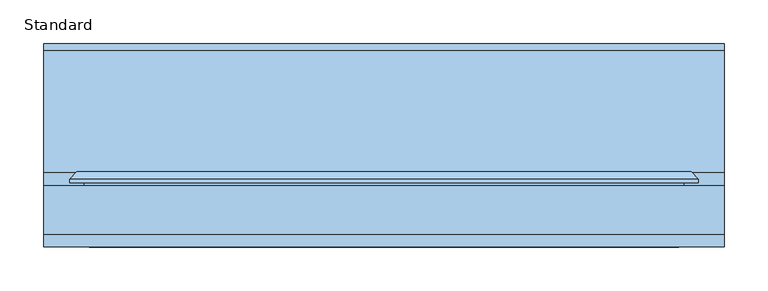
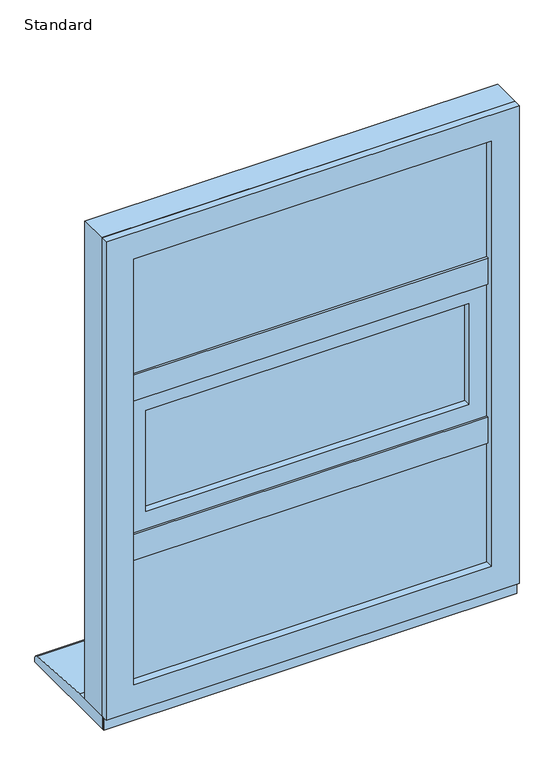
"""IFC4 building model written with IfcOpenShell, lengths in millimetres: window geometry, SMARTS_Alitherm600 : Standard."""

from ifc_helpers import new_model, si_unit, point, frame, frame_2d, origin, place, context, project, spatial, polyline, circle_curve, trimmed, segment, composite_curve, outline, extrude, faceted_brep, source, transform, mapped, element, save


def standard_d67343e6(model_context):
    return source(origin(), model_context, "Body", "SolidModel", [
        extrude(outline(polyline([(354.1020883, 102.8298432), (354.1020883, 47.2458572), (-354.1020883, 47.2458572), (-354.1020883, 102.8298432), (354.1020883, 102.8298432)])), frame((0.0, 0.0, 943.9333333), z_axis=(0.0, 0.0, 1.0), x_axis=(1.0, 0.0, 0.0)), (0.0, 0.0, 1.0), 18.8),
        extrude(outline(polyline([(337.6, 47.2458572), (337.6, 43.2798432), (-337.6, 43.2798432), (-337.6, 47.2458572), (337.6, 47.2458572)])), frame((0.0, 0.0, 927.431245), z_axis=(0.0, 0.0, 1.0), x_axis=(1.0, 0.0, 0.0)), (0.0, 0.0, 1.0), 51.8041766),
        extrude(outline(polyline([(354.1020883, 102.8298432), (354.1020883, 47.2458572), (-354.1020883, 47.2458572), (-354.1020883, 102.8298432), (354.1020883, 102.8298432)])), frame((0.0, 0.0, 1262.2666667), z_axis=(0.0, 0.0, 1.0), x_axis=(1.0, 0.0, 0.0)), (0.0, 0.0, 1.0), 18.8),
        extrude(outline(polyline([(337.6, 47.2458572), (337.6, 43.2798432), (-337.6, 43.2798432), (-337.6, 47.2458572), (337.6, 47.2458572)])), frame((0.0, 0.0, 1245.7645784), z_axis=(0.0, 0.0, 1.0), x_axis=(1.0, 0.0, 0.0)), (0.0, 0.0, 1.0), 51.8041766),
        extrude(outline(polyline([(-352.6, 77.7798432), (352.6, 77.7798432), (352.6, 73.7798432), (-352.6, 73.7798432), (-352.6, 77.7798432)])), frame((0.0, 0.0, 672.4), z_axis=(0.0, 0.0, 1.0), x_axis=(1.0, 0.0, 0.0)), (0.0, 0.0, 1.0), 269.9333333),
        extrude(outline(polyline([(-352.6, 57.7798432), (352.6, 57.7798432), (352.6, 53.7798432), (-352.6, 53.7798432), (-352.6, 57.7798432)])), frame((0.0, 0.0, 672.4), z_axis=(0.0, 0.0, 1.0), x_axis=(1.0, 0.0, 0.0)), (0.0, 0.0, 1.0), 269.9333333),
        extrude(outline(polyline([(942.3333333, -352.6), (672.4, -352.6), (672.4, 352.6), (942.3333333, 352.6), (942.3333333, -352.6)]), holes=[polyline([(932.3333333, 342.6), (682.4, 342.6), (682.4, -342.6), (932.3333333, -342.6), (932.3333333, 342.6)])]), frame((0.0, 57.7798432, 0.0), z_axis=(0.0, 1.0, 0.0), x_axis=(0.0, 0.0, 1.0)), (0.0, 0.0, 1.0), 16.0),
        faceted_brep([(-349.4160653, 102.7798432, 939.1493986), (-337.2339746, 81.6798432, 926.9673079), (-337.2339746, 81.6798432, 687.7660254), (-349.4160653, 102.7798432, 675.5839347), (337.2339746, 81.6798432, 687.7660254), (349.4160653, 102.7798432, 675.5839347), (337.2339746, 81.6798432, 926.9673079), (349.4160653, 102.7798432, 939.1493986), (354.1, 81.6798432, 943.8333333), (354.1, 102.7798432, 943.8333333), (-354.1, 102.7798432, 943.8333333), (-354.1, 81.6798432, 943.8333333), (-354.1, 102.7798432, 670.9), (-354.1, 81.6798432, 670.9), (354.1, 102.7798432, 670.9), (354.1, 81.6798432, 670.9)], [[[0, 1, 2, 3]], [[3, 2, 4, 5]], [[5, 4, 6, 7]], [[7, 6, 1, 0]], [[8, 9, 10, 11]], [[11, 10, 12, 13]], [[13, 12, 14, 15]], [[9, 14, 12, 10], [0, 3, 5, 7]], [[15, 14, 9, 8]], [[11, 13, 15, 8], [6, 4, 2, 1]]]),
        extrude(outline(polyline([(1224.6666667, -316.6), (1000.3333333, -316.6), (1000.3333333, 316.6), (1224.6666667, 316.6), (1224.6666667, -316.6)]), holes=[polyline([(1214.6666667, 306.6), (1010.3333333, 306.6), (1010.3333333, -306.6), (1214.6666667, -306.6), (1214.6666667, 306.6)])]), frame((0.0, 72.3211351, 0.0), z_axis=(0.0, 1.0, 0.0), x_axis=(0.0, 0.0, 1.0)), (0.0, 0.0, 1.0), 16.0),
        extrude(outline(polyline([(-316.6, 92.3211351), (316.6, 92.3211351), (316.6, 88.3211351), (-316.6, 88.3211351), (-316.6, 92.3211351)])), frame((0.0, 0.0, 1000.3333333), z_axis=(0.0, 0.0, 1.0), x_axis=(1.0, 0.0, 0.0)), (0.0, 0.0, 1.0), 224.3333333),
        extrude(outline(polyline([(-316.6, 72.3211351), (316.6, 72.3211351), (316.6, 68.3211351), (-316.6, 68.3211351), (-316.6, 72.3211351)])), frame((0.0, 0.0, 1000.3333333), z_axis=(0.0, 0.0, 1.0), x_axis=(1.0, 0.0, 0.0)), (0.0, 0.0, 1.0), 224.3333333),
        faceted_brep([(316.9221147, 118.8818325, 1224.9887813), (304.740024, 97.7818325, 1212.8066907), (-304.740024, 97.7818325, 1212.8066907), (-316.9221147, 118.8818325, 1224.9887813), (321.6060494, 97.7818325, 1229.6727161), (321.6060494, 118.8818325, 1229.6727161), (-321.6060494, 118.8818325, 1229.6727161), (-321.6060494, 97.7818325, 1229.6727161), (-304.740024, 97.7818325, 1012.1933093), (-316.9221147, 118.8818325, 1000.0112187), (-321.6060494, 118.8818325, 995.3272839), (-321.6060494, 97.7818325, 995.3272839), (304.740024, 97.7818325, 1012.1933093), (316.9221147, 118.8818325, 1000.0112187), (321.6060494, 118.8818325, 995.3272839), (321.6060494, 97.7818325, 995.3272839)], [[[0, 1, 2, 3]], [[4, 5, 6, 7]], [[3, 2, 8, 9]], [[7, 6, 10, 11]], [[9, 8, 12, 13]], [[11, 10, 14, 15]], [[13, 12, 1, 0]], [[5, 14, 10, 6], [3, 9, 13, 0]], [[15, 14, 5, 4]], [[7, 11, 15, 4], [1, 12, 8, 2]]]),
        extrude(outline(polyline([(973.4862414, -343.447092), (973.4862414, 343.447092), (1251.5137586, 343.447092), (1251.5137586, -343.447092), (973.4862414, -343.447092)]), holes=[polyline([(1213.1666667, -305.1), (1213.1666667, 305.1), (1011.8333333, 305.1), (1011.8333333, -305.1), (1213.1666667, -305.1)])]), frame((0.0, 50.2798432, 0.0), z_axis=(0.0, 1.0, 0.0), x_axis=(0.0, 0.0, 1.0)), (0.0, 0.0, 1.0), 13.0853156),
        faceted_brep([(-321.6060494, 118.8818325, 1229.6727161), (-321.6060494, 63.3651588, 1229.6727161), (-321.6060494, 63.3651588, 995.3272839), (-321.6060494, 118.8818325, 995.3272839), (321.6060494, 63.3651588, 995.3272839), (321.6060494, 118.8818325, 995.3272839), (321.6060494, 63.3651588, 1229.6727161), (321.6060494, 118.8818325, 1229.6727161), (-360.3358988, 106.2818325, 1268.4025655), (-360.3358988, 110.3519831, 1268.4025655), (-360.3358988, 110.3519831, 956.5974345), (-360.3358988, 106.2818325, 956.5974345), (360.3358988, 110.3519831, 956.5974345), (360.3358988, 106.2818325, 956.5974345), (360.3358988, 110.3519831, 1268.4025655), (360.3358988, 106.2818325, 1268.4025655), (-343.7467657, 106.2818325, 1251.8134324), (343.7467657, 106.2818325, 1251.8134324), (343.7467657, 106.2818325, 973.1865676), (-343.7467657, 106.2818325, 973.1865676), (-351.8060494, 118.8818325, 1259.8727161), (351.8060494, 118.8818325, 1259.8727161), (351.8060494, 118.8818325, 965.1272839), (-351.8060494, 118.8818325, 965.1272839), (-343.7467657, 63.3651588, 1251.8134324), (-343.7467657, 63.3651588, 973.1865676), (343.7467657, 63.3651588, 973.1865676), (343.7467657, 63.3651588, 1251.8134324)], [[[0, 1, 2, 3]], [[3, 2, 4, 5]], [[5, 4, 6, 7]], [[7, 6, 1, 0]], [[8, 9, 10, 11]], [[11, 10, 12, 13]], [[13, 12, 14, 15]], [[11, 13, 15, 8], [16, 17, 18, 19]], [[15, 14, 9, 8]], [[20, 21, 22, 23], [3, 5, 7, 0]], [[24, 16, 19, 25]], [[25, 19, 18, 26]], [[26, 18, 17, 27]], [[25, 26, 27, 24], [1, 6, 4, 2]], [[27, 17, 16, 24]], [[9, 20, 23, 10]], [[10, 23, 22, 12]], [[12, 22, 21, 14]], [[14, 21, 20, 9]]]),
        extrude(outline(polyline([(1590.0, 390.0), (1590.0, -390.0), (635.0, -390.0), (635.0, 390.0), (1590.0, 390.0)]), holes=[polyline([(670.85, 354.15), (670.85, -354.15), (1554.15, -354.15), (1554.15, 354.15), (670.85, 354.15)])]), frame((0.0, 47.2798427, 0.0), z_axis=(0.0, 1.0, 0.0), x_axis=(0.0, 0.0, 1.0)), (0.0, 0.0, 1.0), 55.5500006),
        extrude(outline(polyline([(1590.0, 390.0), (1590.0, -390.0), (635.0, -390.0), (635.0, 390.0), (1590.0, 390.0)]), holes=[polyline([(687.35, 337.65), (687.35, -337.65), (1537.65, -337.65), (1537.65, 337.65), (687.35, 337.65)])]), frame((0.0, 32.8298432, 0.0), z_axis=(0.0, 1.0, 0.0), x_axis=(0.0, 0.0, 1.0)), (0.0, 0.0, 1.0), 14.4499994),
        extrude(outline(polyline([(-352.6, 77.7798432), (352.6, 77.7798432), (352.6, 73.7798432), (-352.6, 73.7798432), (-352.6, 77.7798432)])), frame((0.0, 0.0, 1282.6666667), z_axis=(0.0, 0.0, 1.0), x_axis=(1.0, 0.0, 0.0)), (0.0, 0.0, 1.0), 269.9333333),
        extrude(outline(polyline([(-352.6, 57.7798432), (352.6, 57.7798432), (352.6, 53.7798432), (-352.6, 53.7798432), (-352.6, 57.7798432)])), frame((0.0, 0.0, 1282.6666667), z_axis=(0.0, 0.0, 1.0), x_axis=(1.0, 0.0, 0.0)), (0.0, 0.0, 1.0), 269.9333333),
        extrude(outline(polyline([(1552.6, -352.6), (1282.6666667, -352.6), (1282.6666667, 352.6), (1552.6, 352.6), (1552.6, -352.6)]), holes=[polyline([(1542.6, 342.6), (1292.6666667, 342.6), (1292.6666667, -342.6), (1542.6, -342.6), (1542.6, 342.6)])]), frame((0.0, 57.7798432, 0.0), z_axis=(0.0, 1.0, 0.0), x_axis=(0.0, 0.0, 1.0)), (0.0, 0.0, 1.0), 16.0),
        faceted_brep([(-349.4160653, 102.7798432, 1549.4160653), (-337.2339746, 81.6798432, 1537.2339746), (-337.2339746, 81.6798432, 1298.0326921), (-349.4160653, 102.7798432, 1285.8506014), (337.2339746, 81.6798432, 1298.0326921), (349.4160653, 102.7798432, 1285.8506014), (337.2339746, 81.6798432, 1537.2339746), (349.4160653, 102.7798432, 1549.4160653), (354.1, 81.6798432, 1554.1), (354.1, 102.7798432, 1554.1), (-354.1, 102.7798432, 1554.1), (-354.1, 81.6798432, 1554.1), (-354.1, 102.7798432, 1281.1666667), (-354.1, 81.6798432, 1281.1666667), (354.1, 102.7798432, 1281.1666667), (354.1, 81.6798432, 1281.1666667)], [[[0, 1, 2, 3]], [[3, 2, 4, 5]], [[5, 4, 6, 7]], [[7, 6, 1, 0]], [[8, 9, 10, 11]], [[11, 10, 12, 13]], [[13, 12, 14, 15]], [[9, 14, 12, 10], [0, 3, 5, 7]], [[15, 14, 9, 8]], [[11, 13, 15, 8], [6, 4, 2, 1]]]),
        extrude(outline(polyline([(390.0, 43.2798432), (390.0, 40.7798432), (-390.0, 40.7798432), (-390.0, 43.2798432), (390.0, 43.2798432)])), frame((0.0, 0.0, 610.0), z_axis=(0.0, 0.0, 1.0), x_axis=(1.0, 0.0, 0.0)), (0.0, 0.0, 1.0), 31.0),
        extrude(outline(composite_curve([segment(polyline([(265.7798432, 610.0), (43.2798432, 610.0), (43.2798432, 635.0), (118.7798432, 635.0), (258.4770891, 625.9276664)]), True, "CONTINUOUS"), segment(trimmed(circle_curve(frame_2d((257.7798432, 617.9581088)), 8.0), [point((258.4770891, 625.9276664))], [point((265.7798432, 617.9581088))], False, "CARTESIAN"), True, "CONTINUOUS"), segment(polyline([(265.7798432, 617.9581088), (265.7798432, 610.0)]), True, "CONTINUOUS")], self_intersect=False)), frame((-390.0, 0.0, 0.0), z_axis=(1.0, 0.0, 0.0), x_axis=(0.0, 1.0, 0.0)), (0.0, 0.0, 1.0), 780.0),
    ])


if __name__ == "__main__":
    model = new_model("IFC4")
    model_context = context("Model", 3, world=origin())
    ifc_project = project(units=[si_unit("LENGTHUNIT", "METRE", prefix="MILLI")], contexts=[model_context])
    site = spatial("IfcSite", under=ifc_project)
    building = spatial("IfcBuilding", under=site)
    placement = place(None, origin())
    standard_shape = standard_d67343e6(model_context)
    element("IfcWindow", 1, ObjectType="SMARTS_Alitherm600 : Standard", at=placement, inside=building, context=model_context, shape_type="MappedRepresentation", body=[
        mapped(standard_shape, transform((0.0, 0.0, 0.0), x_axis=(1.0, 0.0, 0.0), y_axis=(0.0, 1.0, 0.0), z_axis=(0.0, 0.0, 1.0))),
    ])
    save(model, "model.ifc")
